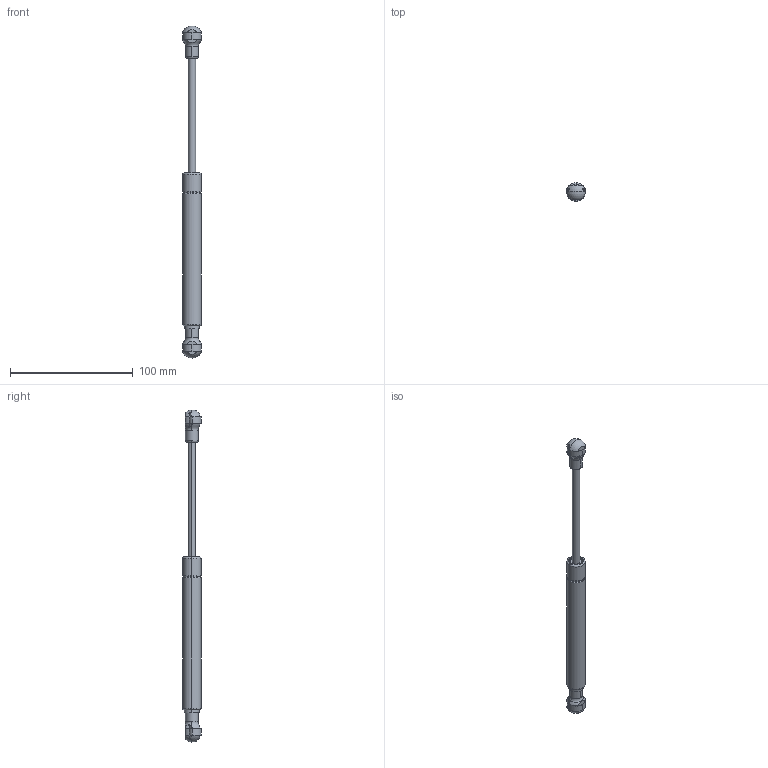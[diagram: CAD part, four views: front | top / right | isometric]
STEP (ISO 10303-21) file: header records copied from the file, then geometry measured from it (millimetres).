
FILE_DESCRIPTION (( 'STEP AP214' ), '1' );
FILE_NAME ('GS06-0300PE10.STEP', '2011-03-14T19:44:26', ( 'user' ), ( '' ), 'SwSTEP 2.0', 'SolidWorks 2011', '' );
FILE_SCHEMA (( 'AUTOMOTIVE_DESIGN' ));
Length unit declared in the file: millimetre
Products named in the file (5): GS06-0300PE10-NC; GS06-0300PE10-SHAFT; GS06-0300PE10-TUBE; socket; GS06-0300PE10
Assembly tree (5 placements, depth 3):
  GS06-0300PE10
    socket  x2
    GS06-0300PE10-NC
      GS06-0300PE10-TUBE
      GS06-0300PE10-SHAFT
Bounding box: 15.5 x 15.3 x 270.5 mm (x, y, z)
Volume: 26390.4 mm3; surface area: 13624 mm2
Topology: 4 solids, 4 shells, 185 faces, 508 edges, 334 vertices
Faces by surface type: plane 77, cylinder 68, torus 20, sphere 16, cone 4
Entity records: 4574 total; most frequent: CARTESIAN_POINT 898, DIRECTION 604, ORIENTED_EDGE 556, EDGE_CURVE 278, AXIS2_PLACEMENT_3D 250, VERTEX_POINT 181, CIRCLE 134, EDGE_LOOP 113
